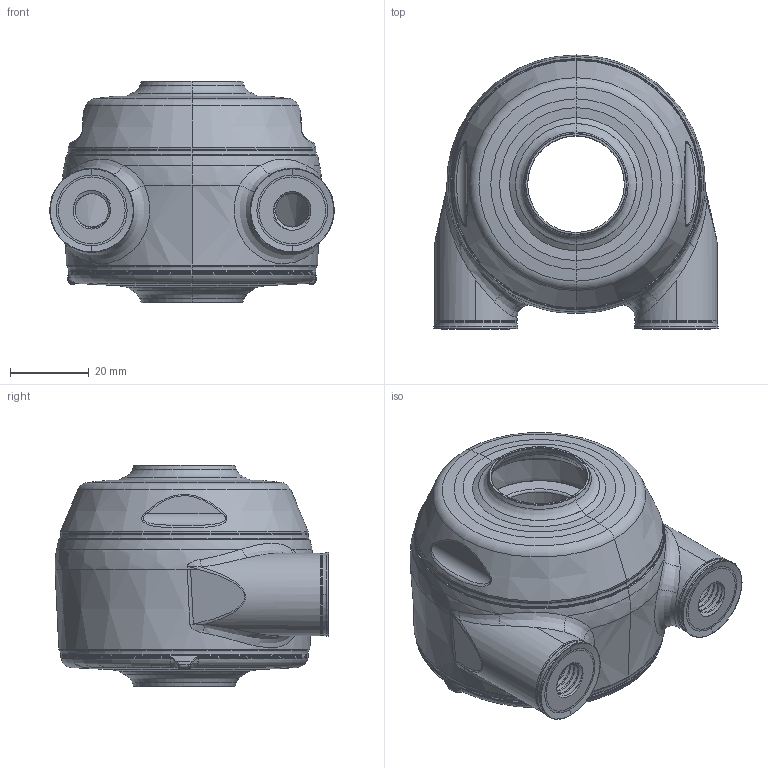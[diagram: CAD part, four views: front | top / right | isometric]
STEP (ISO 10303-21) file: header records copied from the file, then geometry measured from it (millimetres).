
FILE_DESCRIPTION (( 'STEP AP203' ), '1' );
FILE_NAME ('XBTBC52(Blue)-SSB2500(Front)-OM(Blue)-OS(Blue)_Shell.step', '2020-08-04T17:27:59', ( '' ), ( '' ), 'SwSTEP 2.0', 'SolidWorks 2019', '' );
FILE_SCHEMA (( 'CONFIG_CONTROL_DESIGN' ));
Length unit declared in the file: millimetre
Products named in the file (1): XBTBC52(Blue)-SSB2500(Front)-OM(Blue)-OS(Blue)_Shell
Bounding box: 72.4 x 69.69 x 56.34 mm (x, y, z)
Surface area: 30618.3 mm2 (no closed solid volume)
Topology: 0 solids, 20 shells, 278 faces, 876 edges, 605 vertices
Faces by surface type: cone 65, torus 62, cylinder 62, bspline 60, plane 19, sphere 10
Entity records: 18507 total; most frequent: CARTESIAN_POINT 11297, DIRECTION 1465, ORIENTED_EDGE 1434, EDGE_CURVE 876, AXIS2_PLACEMENT_3D 649, VERTEX_POINT 605, CIRCLE 430, EDGE_LOOP 296
